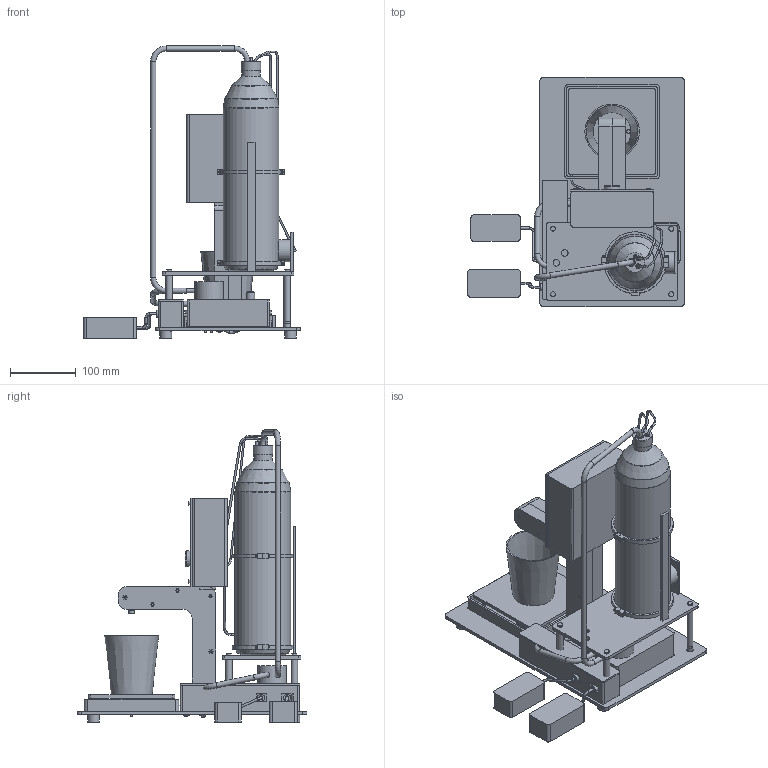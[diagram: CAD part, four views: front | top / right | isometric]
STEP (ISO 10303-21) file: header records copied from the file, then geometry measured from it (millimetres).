
FILE_DESCRIPTION(('FreeCAD Model'),'2;1');
FILE_NAME('Open CASCADE Shape Model','2026-10-31T13:49:49',('FreeCAD'),( 'FreeCAD'),'Open CASCADE STEP processor 7.8','FreeCAD','Unknown');
FILE_SCHEMA(('AUTOMOTIVE_DESIGN { 1 0 10303 214 1 1 1 1 }'));
Length unit declared in the file: millimetre
Products named in the file (1): Open CASCADE STEP translator 7.8 33
Bounding box: 330 x 350 x 445 mm (x, y, z)
Volume: 2040073.8 mm3; surface area: 1042979.2 mm2
Topology: 254 solids, 254 shells, 1767 faces, 3534 edges, 2322 vertices
Faces by surface type: plane 1323, cylinder 382, torus 44, cone 13, extrusion 5
Full cylindrical faces by diameter (mm): 1.2 x2, 2 x10, 2.4 x9, 2.6 x5, 2.8 x3, 3 x35, 3.2 x3, 3.4 x38, 3.6 x5, 4 x18, 4.4 x8, 4.5 x16, 4.6 x8, 5 x8, 5.5 x2, 5.7 x24, 5.8 x1, 6 x13, 7.6 x14, 8 x9, 9 x17, 9.5 x2, 9.6 x1, 10 x12, 11 x6, 12 x2, 12.1 x1, 13 x1, 16 x1, 16.4 x1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
Entity records: 46078 total; most frequent: CARTESIAN_POINT 8338, DIRECTION 7923, ORIENTED_EDGE 7068, EDGE_CURVE 3534, AXIS2_PLACEMENT_3D 2647, VECTOR 2629, LINE 2624, VERTEX_POINT 2322
